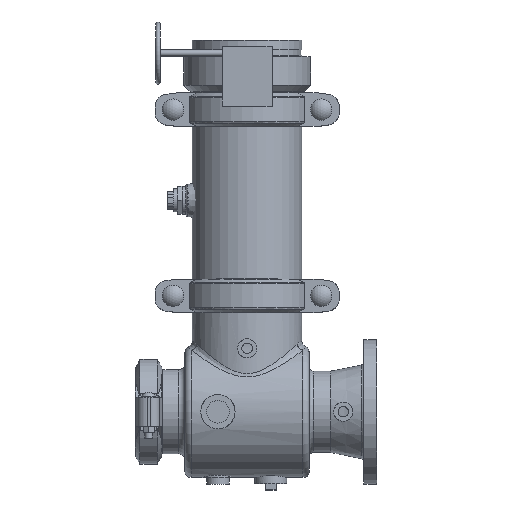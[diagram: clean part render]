
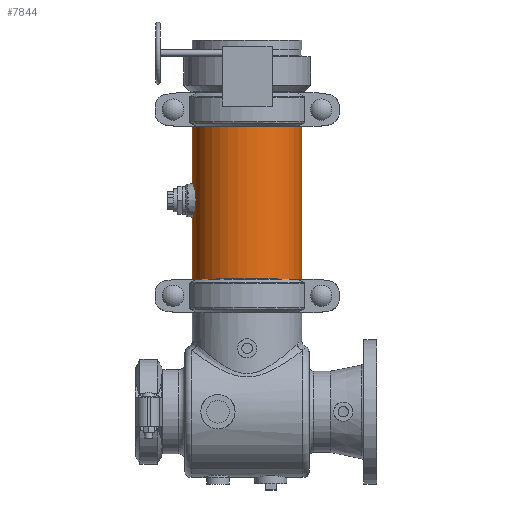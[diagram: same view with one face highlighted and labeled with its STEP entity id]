
A CAD part, top view. The second image highlights one B-rep face of the part: STEP entity #7844.
In plain terms, the highlighted cylindrical face has radius 109.537 mm (diameter 219.075 mm), a full revolution.
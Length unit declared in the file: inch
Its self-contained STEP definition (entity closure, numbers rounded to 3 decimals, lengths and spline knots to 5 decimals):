
#737=FACE_OUTER_BOUND('',#1220,.T.);
#1220=EDGE_LOOP('',(#5845,#5846,#5847,#5848,#5849,#5850));
#1730=CIRCLE('',#8669,4.3125);
#1731=CIRCLE('',#8670,4.3125);
#1732=CIRCLE('',#8672,4.3125);
#1733=CIRCLE('',#8673,4.3125);
#2162=LINE('',#13836,#2700);
#2700=VECTOR('',#10199,4.3125);
#3369=VERTEX_POINT('',#13827);
#3370=VERTEX_POINT('',#13828);
#3371=VERTEX_POINT('',#13832);
#3372=VERTEX_POINT('',#13833);
#4262=EDGE_CURVE('',#3369,#3370,#1730,.T.);
#4263=EDGE_CURVE('',#3370,#3369,#1731,.T.);
#4264=EDGE_CURVE('',#3371,#3372,#1732,.T.);
#4265=EDGE_CURVE('',#3372,#3371,#1733,.T.);
#4266=EDGE_CURVE('',#3372,#3370,#2162,.T.);
#5845=ORIENTED_EDGE('',*,*,#4264,.F.);
#5846=ORIENTED_EDGE('',*,*,#4265,.F.);
#5847=ORIENTED_EDGE('',*,*,#4266,.T.);
#5848=ORIENTED_EDGE('',*,*,#4263,.T.);
#5849=ORIENTED_EDGE('',*,*,#4262,.T.);
#5850=ORIENTED_EDGE('',*,*,#4266,.F.);
#7158=CYLINDRICAL_SURFACE('',#8671,4.3125);
#7844=ADVANCED_FACE('',(#737),#7158,.T.);
#8669=AXIS2_PLACEMENT_3D('',#13829,#10189,#10190);
#8670=AXIS2_PLACEMENT_3D('',#13830,#10191,#10192);
#8671=AXIS2_PLACEMENT_3D('',#13831,#10193,#10194);
#8672=AXIS2_PLACEMENT_3D('',#13834,#10195,#10196);
#8673=AXIS2_PLACEMENT_3D('',#13835,#10197,#10198);
#10189=DIRECTION('center_axis',(0.,-1.,0.));
#10190=DIRECTION('ref_axis',(1.,0.,0.));
#10191=DIRECTION('center_axis',(0.,-1.,0.));
#10192=DIRECTION('ref_axis',(1.,0.,0.));
#10193=DIRECTION('center_axis',(0.,-1.,0.));
#10194=DIRECTION('ref_axis',(1.,0.,0.));
#10195=DIRECTION('center_axis',(0.,-1.,0.));
#10196=DIRECTION('ref_axis',(1.,0.,0.));
#10197=DIRECTION('center_axis',(0.,-1.,0.));
#10198=DIRECTION('ref_axis',(1.,0.,0.));
#10199=DIRECTION('',(0.,1.,0.));
#13827=CARTESIAN_POINT('',(4.3125,6.012,0.));
#13828=CARTESIAN_POINT('',(-4.3125,6.012,0.));
#13829=CARTESIAN_POINT('Origin',(0.,6.012,0.));
#13830=CARTESIAN_POINT('Origin',(0.,6.012,0.));
#13831=CARTESIAN_POINT('Origin',(0.,0.,
0.));
#13832=CARTESIAN_POINT('',(4.3125,-6.012,0.));
#13833=CARTESIAN_POINT('',(-4.3125,-6.012,0.));
#13834=CARTESIAN_POINT('Origin',(0.,-6.012,0.));
#13835=CARTESIAN_POINT('Origin',(0.,-6.012,0.));
#13836=CARTESIAN_POINT('',(-4.3125,0.,0.));
